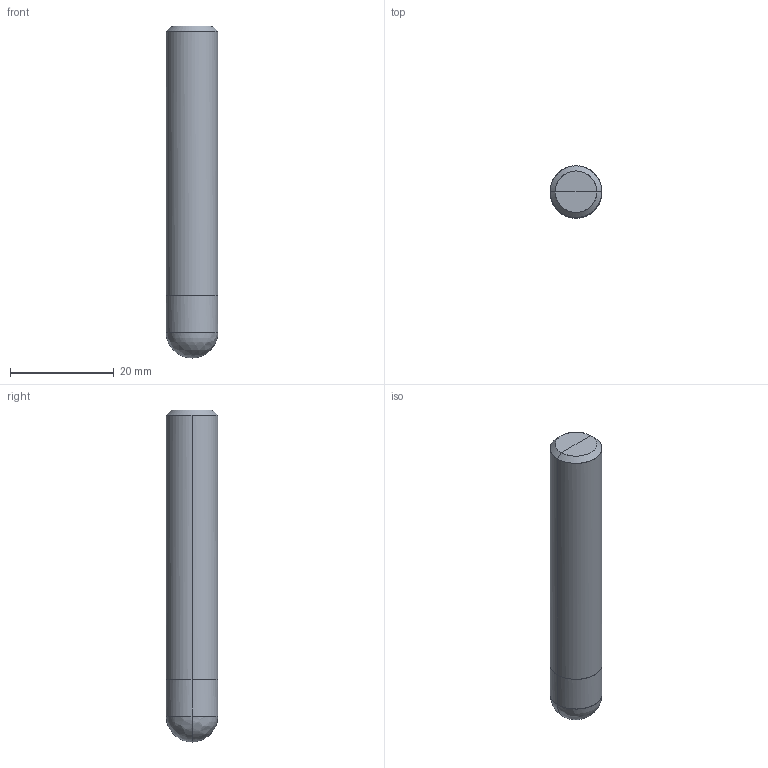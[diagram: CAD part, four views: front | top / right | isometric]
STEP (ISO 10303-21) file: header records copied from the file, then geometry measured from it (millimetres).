
FILE_DESCRIPTION(/* description */ (''),/* implementation_level */ '2;1');
FILE_NAME(/*name*/ '2152-10F',/*time_stamp*/'2021-5-26T7:9:31',/*author*/ ('ISBE GmbH'),/*organization*/ ('ISBE GmbH'),/*preprocessor_version*/ 'STEP IO v1.0',/*originating_system*/ '',/*authorisation*/ '');
FILE_SCHEMA (('AUTOMOTIVE_DESIGN'));
Length unit declared in the file: millimetre
Products named in the file (1): Document
Bounding box: 10 x 10 x 64 mm (x, y, z)
Surface area: 2229.7 mm2 (no closed solid volume)
Topology: 0 solids, 14 shells, 14 faces, 58 edges, 52 vertices
Faces by surface type: bspline 14
Entity records: 557 total; most frequent: CARTESIAN_POINT 292, VERTEX_POINT 48, EDGE_CURVE 48, ORIENTED_EDGE 48, DIRECTION 16, EDGE_LOOP 14, FACE_OUTER_BOUND 14, ADVANCED_FACE 14
